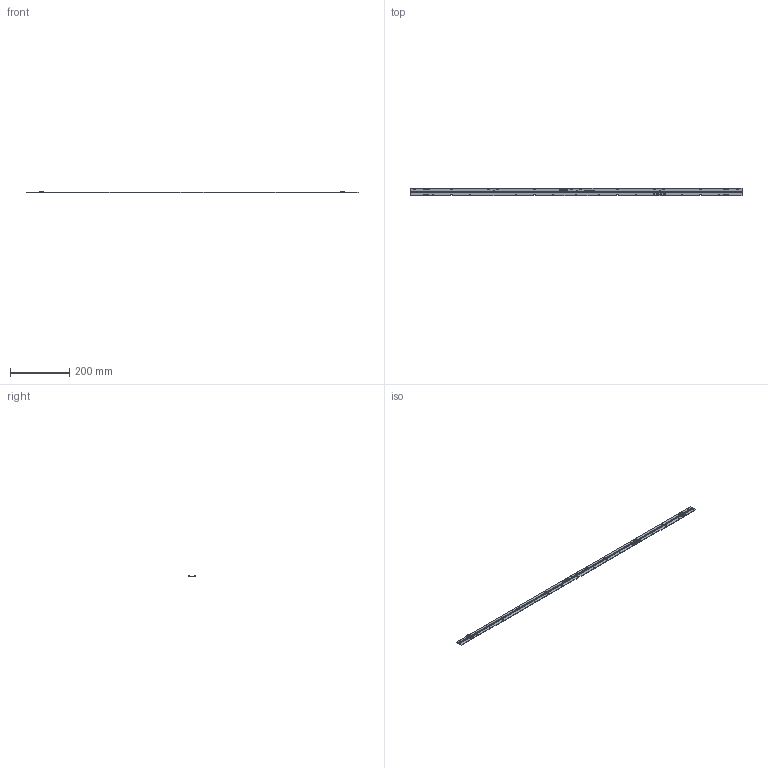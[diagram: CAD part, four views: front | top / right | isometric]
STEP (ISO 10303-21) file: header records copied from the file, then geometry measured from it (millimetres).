
FILE_DESCRIPTION (( 'STEP AP214' ), '1' );
FILE_NAME ('BXEB-TL-L1120Z ver. B (15-000720 revB).STEP', '2020-11-03T05:22:20', ( '' ), ( '' ), 'SwSTEP 2.0', 'SolidWorks 2020', '' );
FILE_SCHEMA (( 'AUTOMOTIVE_DESIGN' ));
Length unit declared in the file: millimetre
Products named in the file (1): BXEB-TL-L1120Z ver. B (15-000720 revB)
Bounding box: 1120 x 24 x 5.55 mm (x, y, z)
Volume: 44911.9 mm3; surface area: 66259.3 mm2
Topology: 285 solids, 285 shells, 6453 faces, 16436 edges, 10996 vertices
Faces by surface type: plane 5756, bspline 427, cylinder 262, cone 8
Full cylindrical faces by diameter (mm): 0.597 x1, 1.019 x1, 2 x7, 4.3 x12
Entity records: 283795 total; most frequent: CARTESIAN_POINT 58300, ORIENTED_EDGE 32814, DIRECTION 26855, EDGE_CURVE 16407, VECTOR 14561, LINE 14561, VERTEX_POINT 10996, EDGE_LOOP 6949
